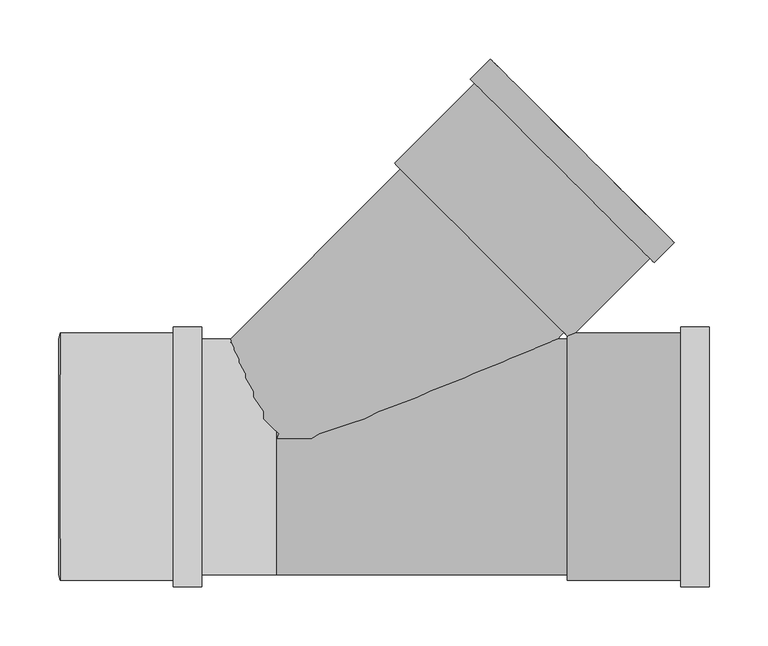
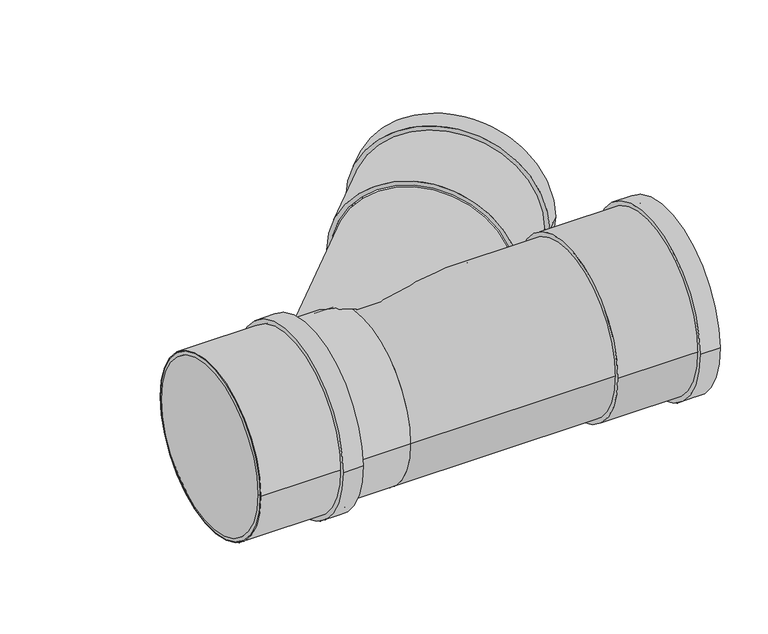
"""IFC4 building model written with IfcOpenShell, lengths in millimetres: pipe fitting geometry, Superdrain SKEA Branch : Superdrain SKEA Branch."""

from ifc_helpers import new_model, si_unit, point, frame, origin, origin_2d, place, context, project, spatial, polyline, circle_curve, ellipse_curve, trimmed, segment, composite_curve, outline, extrude, source, transform, mapped, element, save
from ifc_brep_helpers import plane_surface, cylinder_surface, revolved_surface, advanced_brep


def pipe_fitting_e81c372e(model_context):
    return source(origin(), model_context, "Body", "SolidModel", [
        extrude(outline(composite_curve([segment(trimmed(circle_curve(origin_2d(), 105.0), [point((105.0, 0.0))], [point((-105.0, 0.0))], False, "CARTESIAN"), True, "CONTINUOUS"), segment(trimmed(circle_curve(origin_2d(), 105.0), [point((-105.0, 0.0))], [point((105.0, 0.0))], False, "CARTESIAN"), True, "CONTINUOUS")], self_intersect=False), holes=[composite_curve([segment(trimmed(circle_curve(origin_2d(), 100.0), [point((100.0, 0.0))], [point((-100.0, 0.0))], True, "CARTESIAN"), True, "CONTINUOUS"), segment(trimmed(circle_curve(origin_2d(), 100.0), [point((-100.0, 0.0))], [point((100.0, 0.0))], True, "CARTESIAN"), True, "CONTINUOUS")], self_intersect=False)]), frame((-183.0, 0.0, 0.0), z_axis=(1.0, 0.0, 0.0), x_axis=(0.0, 1.0, 0.0)), (0.0, 0.0, 1.0), 120.0),
        extrude(outline(composite_curve([segment(trimmed(circle_curve(origin_2d(), 110.25), [point((110.25, 0.0))], [point((-110.25, 0.0))], False, "CARTESIAN"), True, "CONTINUOUS"), segment(trimmed(circle_curve(origin_2d(), 110.25), [point((-110.25, 0.0))], [point((110.25, 0.0))], False, "CARTESIAN"), True, "CONTINUOUS")], self_intersect=False), holes=[composite_curve([segment(trimmed(circle_curve(origin_2d(), 100.0), [point((100.0, 0.0))], [point((-100.0, 0.0))], True, "CARTESIAN"), True, "CONTINUOUS"), segment(trimmed(circle_curve(origin_2d(), 100.0), [point((-100.0, 0.0))], [point((100.0, 0.0))], True, "CARTESIAN"), True, "CONTINUOUS")], self_intersect=False)]), frame((-87.0, 0.0, 0.0), z_axis=(1.0, 0.0, 0.0), x_axis=(0.0, 1.0, 0.0)), (0.0, 0.0, 1.0), 24.0),
        advanced_brep(
        [(-184.0, 100.0, 0.0), (-184.0, -100.0, 0.0), (-183.0, 105.0, 0.0), (-183.0, -105.0, 0.0)],
        [
            (0, 1, circle_curve(frame((-184.0, 0.0, 0.0), z_axis=(-1.0, 0.0, 0.0), x_axis=(0.0, 1.0000000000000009, 0.0)), 100.0)),
            (1, 0, circle_curve(frame((-184.0, 0.0, 0.0), z_axis=(-1.0, 0.0, 0.0), x_axis=(0.0, -1.0000000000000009, 0.0)), 100.0)),
            (2, 3, circle_curve(frame((-183.0, 0.0, 0.0), z_axis=(1.0, 0.0, 0.0), x_axis=(0.0, -1.0000000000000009, 0.0)), 105.0)),
            (3, 2, circle_curve(frame((-183.0, 0.0, 0.0), z_axis=(1.0, 0.0, 0.0), x_axis=(0.0, 1.0000000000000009, 0.0)), 105.0)),
            (3, 1),
            (0, 2),
        ],
        [
            plane_surface(frame((-184.0, 0.0, 0.0), z_axis=(-1.0, 0.0, 0.0), x_axis=(0.0, 0.0, -1.0))),
            plane_surface(frame((-183.0, 0.0, 0.0), z_axis=(1.0, 0.0, 0.0), x_axis=(0.0, 0.0, -1.0))),
            revolved_surface(polyline([(-184.0, 99.99999999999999, 0.0), (-183.0, 105.0, 0.0)]), (-204.0, 0.0, 0.0), (1.0000000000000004, 0.0, 0.0)),
            revolved_surface(polyline([(-184.0, -99.99999999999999, 0.0), (-183.0, -105.0, 0.0)]), (-204.0, 0.0, 0.0), (1.0000000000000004, 0.0, 0.0)),
        ],
        [
            (0, [[1, 2]]),
            (1, [[3, 4]]),
            (2, [[-4, 5, -1, 6]]),
            (3, [[-3, -6, -2, -5]]),
        ],
    ),
        advanced_brep(
        [(243.9518395, 105.3589104, 0.0), (105.3589104, 243.9518395, 0.0), (-40.5929291, 98.0, 0.0), (0.0, 0.0, 98.0), (236.5929291, 98.0, 0.0), (0.0, 0.0, -98.0)],
        [
            (0, 1, circle_curve(frame((174.655375, 174.655375, 0.0), z_axis=(0.7071067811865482, 0.7071067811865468, 0.0), x_axis=(-0.7071067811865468, 0.7071067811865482, 0.0)), 98.0)),
            (1, 0, circle_curve(frame((174.655375, 174.655375, 0.0), z_axis=(0.7071067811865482, 0.7071067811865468, 0.0), x_axis=(-0.7071067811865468, 0.7071067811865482, 0.0)), 98.0)),
            (1, 2),
            (2, 3, ellipse_curve(frame((0.0, 0.0, 0.0), z_axis=(0.9238795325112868, 0.3826834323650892, 0.0), x_axis=(0.3826834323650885, -0.9238795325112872, 0.0)), 106.0744356, 98.0)),
            (3, 4, ellipse_curve(frame((0.0, 0.0, 0.0), z_axis=(-0.3826834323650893, 0.923879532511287, 0.0), x_axis=(-0.9238795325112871, -0.3826834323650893, 0.0)), 256.0863411, 98.0)),
            (4, 0),
            (4, 5, ellipse_curve(frame((0.0, 0.0, 0.0), z_axis=(-0.3826834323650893, 0.923879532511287, 0.0), x_axis=(-0.9238795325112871, -0.3826834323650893, 0.0)), 256.0863411, 98.0)),
            (5, 2, ellipse_curve(frame((0.0, 0.0, 0.0), z_axis=(0.9238795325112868, 0.3826834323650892, 0.0), x_axis=(0.3826834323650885, -0.9238795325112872, 0.0)), 106.0744356, 98.0)),
            (2, 4),
        ],
        [
            plane_surface(frame((174.655375, 174.655375, 0.0), z_axis=(0.7071067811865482, 0.7071067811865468, 0.0), x_axis=(0.0, 0.0, 1.0))),
            cylinder_surface(frame((0.0, 0.0, 0.0), z_axis=(-0.7071067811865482, -0.7071067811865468, 0.0), x_axis=(-0.7071067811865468, 0.7071067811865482, 0.0)), 98.0),
            revolved_surface(polyline([(-236.59292909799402, 98.0, 0.0), (236.5929291, 98.0, 0.0)]), (-188.0, 0.0, 0.0), (-1.0, 0.0, 0.0)),
        ],
        [
            (0, [[1, 2]]),
            (1, [[-2, 3, 4, 5, 6]]),
            (1, [[-1, -6, 7, 8, -3]]),
            (2, [[9, -5, -4]]),
            (2, [[-9, -8, -7]]),
        ],
    ),
        advanced_brep(
        [(247.0, -105.0, 0.0), (247.0, 105.0, 0.0), (367.0, -105.0, 0.0), (367.0, 105.0, 0.0), (367.0, -100.0, 0.0), (367.0, 100.0, 0.0), (248.0, -100.0, 0.0), (248.0, 100.0, 0.0)],
        [
            (0, 1, circle_curve(frame((247.0, 0.0, 0.0), z_axis=(-1.0, 0.0, 0.0), x_axis=(0.0, 1.0, 0.0)), 105.0)),
            (1, 0, circle_curve(frame((247.0, 0.0, 0.0), z_axis=(-1.0, 0.0, 0.0), x_axis=(0.0, 1.0, 0.0)), 105.0)),
            (2, 3, circle_curve(frame((367.0, 0.0, 0.0), z_axis=(1.0, 0.0, 0.0), x_axis=(0.0, 1.0, 0.0)), 105.0)),
            (3, 2, circle_curve(frame((367.0, 0.0, 0.0), z_axis=(1.0, 0.0, 0.0), x_axis=(0.0, 1.0, 0.0)), 105.0)),
            (4, 5, circle_curve(frame((367.0, 0.0, 0.0), z_axis=(-1.0, 0.0, 0.0), x_axis=(0.0, 1.0, 0.0)), 100.0)),
            (5, 4, circle_curve(frame((367.0, 0.0, 0.0), z_axis=(-1.0, 0.0, 0.0), x_axis=(0.0, 1.0, 0.0)), 100.0)),
            (0, 2),
            (3, 1),
            (6, 7, circle_curve(frame((248.0, 0.0, 0.0), z_axis=(-1.0, 0.0, 0.0), x_axis=(0.0, 1.0, 0.0)), 100.0)),
            (7, 5),
            (4, 6),
            (7, 6, circle_curve(frame((248.0, 0.0, 0.0), z_axis=(-1.0, 0.0, 0.0), x_axis=(0.0, 1.0, 0.0)), 100.0)),
        ],
        [
            plane_surface(frame((247.0, 0.0, 0.0), z_axis=(-1.0, 0.0, 0.0), x_axis=(0.0, 0.0, 1.0))),
            plane_surface(frame((367.0, 0.0, 0.0), z_axis=(1.0, 0.0, 0.0), x_axis=(0.0, 0.0, 1.0))),
            cylinder_surface(frame((247.0, 0.0, 0.0), z_axis=(-1.0, 0.0, 0.0), x_axis=(0.0, 1.0, 0.0)), 105.0),
            revolved_surface(polyline([(248.0, 100.0, 0.0), (367.0, 100.0, 0.0)]), (248.0, 0.0, 0.0), (-1.0, 0.0, 0.0)),
            plane_surface(frame((248.0, 0.0, 0.0), z_axis=(1.0, 0.0, 0.0), x_axis=(0.0, 0.0, 1.0))),
        ],
        [
            (0, [[1, 2]]),
            (1, [[3, 4], [5, 6]]),
            (2, [[-1, 7, -4, 8]]),
            (2, [[-2, -8, -3, -7]]),
            (3, [[9, 10, -5, 11]]),
            (3, [[12, -11, -6, -10]]),
            (4, [[-12, -9]]),
        ],
    ),
        extrude(outline(composite_curve([segment(trimmed(circle_curve(origin_2d(), 110.25), [point((110.25, 0.0))], [point((-110.25, 0.0))], False, "CARTESIAN"), True, "CONTINUOUS"), segment(trimmed(circle_curve(origin_2d(), 110.25), [point((-110.25, 0.0))], [point((110.25, 0.0))], False, "CARTESIAN"), True, "CONTINUOUS")], self_intersect=False), holes=[composite_curve([segment(trimmed(circle_curve(origin_2d(), 100.0), [point((100.0, 0.0))], [point((-100.0, 0.0))], True, "CARTESIAN"), True, "CONTINUOUS"), segment(trimmed(circle_curve(origin_2d(), 100.0), [point((-100.0, 0.0))], [point((100.0, 0.0))], True, "CARTESIAN"), True, "CONTINUOUS")], self_intersect=False)]), frame((343.0, 0.0, 0.0), z_axis=(1.0, 0.0, 0.0), x_axis=(0.0, 1.0, 0.0)), (0.0, 0.0, 1.0), 24.0),
        extrude(outline(composite_curve([segment(trimmed(circle_curve(origin_2d(), 100.0), [point((100.0, 0.0))], [point((-100.0, 0.0))], False, "CARTESIAN"), True, "CONTINUOUS"), segment(trimmed(circle_curve(origin_2d(), 100.0), [point((-100.0, 0.0))], [point((100.0, 0.0))], False, "CARTESIAN"), True, "CONTINUOUS")], self_intersect=False)), frame((-183.0, 0.0, 0.0), z_axis=(1.0, 0.0, 0.0), x_axis=(0.0, 1.0, 0.0)), (0.0, 0.0, 1.0), 183.0),
        extrude(outline(composite_curve([segment(trimmed(circle_curve(origin_2d(), 100.0), [point((-100.0, 0.0))], [point((100.0, 0.0))], False, "CARTESIAN"), True, "CONTINUOUS"), segment(trimmed(circle_curve(origin_2d(), 100.0), [point((100.0, 0.0))], [point((-100.0, 0.0))], False, "CARTESIAN"), True, "CONTINUOUS")], self_intersect=False)), frame((0.0, 0.0, 0.0), z_axis=(1.0, 0.0, 0.0), x_axis=(0.0, 1.0, 0.0)), (0.0, 0.0, 1.0), 247.0),
        extrude(outline(composite_curve([segment(trimmed(circle_curve(origin_2d(), 110.25), [point((0.0, 110.25))], [point((0.0, -110.25))], False, "CARTESIAN"), True, "CONTINUOUS"), segment(trimmed(circle_curve(origin_2d(), 110.25), [point((0.0, -110.25))], [point((0.0, 110.25))], False, "CARTESIAN"), True, "CONTINUOUS")], self_intersect=False), holes=[composite_curve([segment(trimmed(circle_curve(origin_2d(), 100.0), [point((0.0, 100.0))], [point((0.0, -100.0))], True, "CARTESIAN"), True, "CONTINUOUS"), segment(trimmed(circle_curve(origin_2d(), 100.0), [point((0.0, -100.0))], [point((0.0, 100.0))], True, "CARTESIAN"), True, "CONTINUOUS")], self_intersect=False)]), frame((242.5376259, 242.5376259, 0.0), z_axis=(0.7071067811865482, 0.7071067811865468, 0.0), x_axis=(0.0, 0.0, 1.0)), (0.0, 0.0, 1.0), 24.0),
        extrude(outline(composite_curve([segment(trimmed(circle_curve(origin_2d(), 105.0), [point((0.0, 105.0))], [point((0.0, -105.0))], False, "CARTESIAN"), True, "CONTINUOUS"), segment(trimmed(circle_curve(origin_2d(), 105.0), [point((0.0, -105.0))], [point((0.0, 105.0))], False, "CARTESIAN"), True, "CONTINUOUS")], self_intersect=False), holes=[composite_curve([segment(trimmed(circle_curve(origin_2d(), 100.0), [point((0.0, 100.0))], [point((0.0, -100.0))], True, "CARTESIAN"), True, "CONTINUOUS"), segment(trimmed(circle_curve(origin_2d(), 100.0), [point((0.0, -100.0))], [point((0.0, 100.0))], True, "CARTESIAN"), True, "CONTINUOUS")], self_intersect=False)]), frame((174.655375, 174.655375, 0.0), z_axis=(0.7071067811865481, 0.707106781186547, 0.0), x_axis=(0.0, 0.0, 1.0)), (0.0, 0.0, 1.0), 120.0),
    ])


if __name__ == "__main__":
    model = new_model("IFC4")
    model_context = context("Model", 3, world=origin())
    ifc_project = project(units=[si_unit("LENGTHUNIT", "METRE", prefix="MILLI")], contexts=[model_context])
    site = spatial("IfcSite", under=ifc_project)
    building = spatial("IfcBuilding", under=site)
    placement = place(None, origin())
    pipe_fitting_shape = pipe_fitting_e81c372e(model_context)
    element("IfcPipeFitting", 1, ObjectType="Superdrain SKEA Branch : Superdrain SKEA Branch", at=placement, inside=building, context=model_context, shape_type="MappedRepresentation", body=[
        mapped(pipe_fitting_shape, transform((0.0, 0.0, 0.0), x_axis=(1.0, 0.0, 0.0), y_axis=(0.0, 1.0, 0.0), z_axis=(0.0, 0.0, 1.0))),
    ])
    save(model, "model.ifc")
